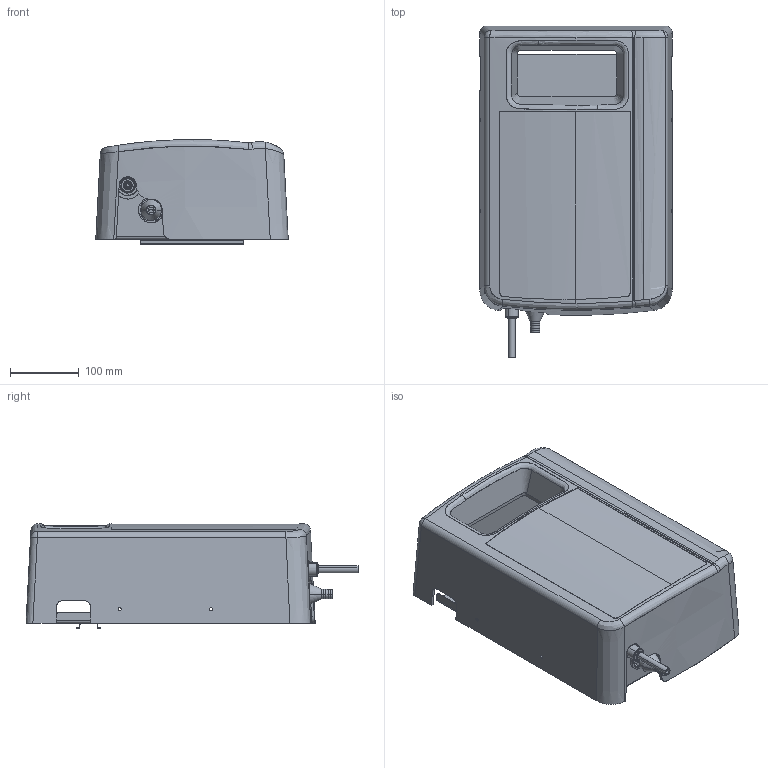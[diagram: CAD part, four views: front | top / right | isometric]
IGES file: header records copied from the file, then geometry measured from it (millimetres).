
Start section: SolidWorks IGES file using analytic representation for surfaces
Global section: file name: S:\Projekte\Heyl_Projekte\OEM-Analysator (Testomat Modul)\Baugruppen\Gehäuse Testomat Modul.IGS; native system: SolidWorks 2024; preprocessor: SolidWorks 2024; author: werner; date: 240823.084334; units: millimetre
Bounding box: 280 x 483.1 x 152.5 mm (x, y, z)
Surface area: 890087 mm2 (no closed solid volume)
Topology: 0 solids, 0 shells, 659 faces, 10764 edges, 10818 vertices
Faces by surface type: bspline 385, revolution 274
